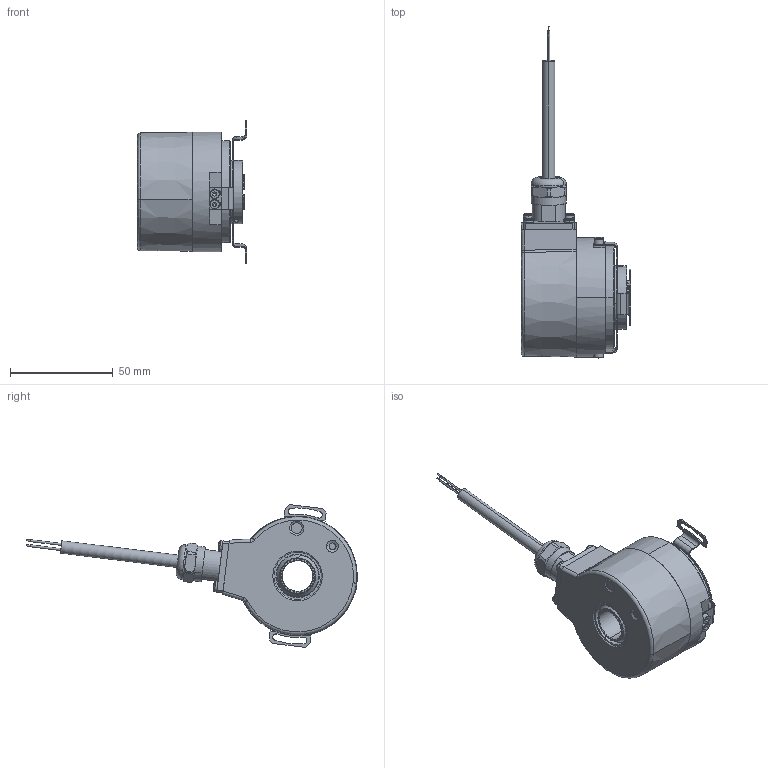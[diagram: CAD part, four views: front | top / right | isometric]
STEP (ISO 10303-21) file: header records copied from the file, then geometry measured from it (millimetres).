
FILE_DESCRIPTION (( 'STEP AP214' ), '1' );
FILE_NAME ('8.5834.56X2.XXXX.STEP', '2017-04-06T05:20:55', ( '' ), ( '' ), 'SwSTEP 2.0', 'SolidWorks 2017', '' );
FILE_SCHEMA (( 'AUTOMOTIVE_DESIGN' ));
Length unit declared in the file: millimetre
Products named in the file (1): 8.5834.56X2.XXXX
Bounding box: 52.97 x 161.25 x 69.44 mm (x, y, z)
Surface area: 27549.6 mm2 (no closed solid volume)
Topology: 0 solids, 23 shells, 445 faces, 1234 edges, 800 vertices
Faces by surface type: plane 198, cylinder 135, cone 76, torus 24, sphere 8, bspline 4
Entity records: 19657 total; most frequent: CARTESIAN_POINT 3286, DIRECTION 2507, ORIENTED_EDGE 2214, EDGE_CURVE 1226, AXIS2_PLACEMENT_3D 961, VERTEX_POINT 800, VECTOR 585, LINE 585
